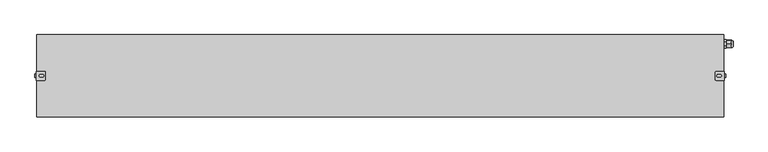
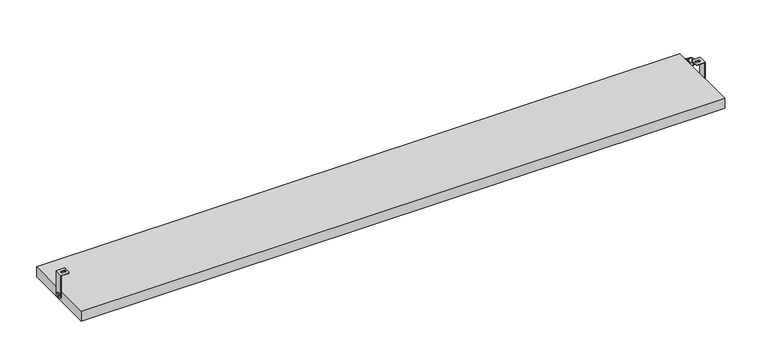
"""IFC4 building model written with IfcOpenShell, lengths in millimetres: light fixture geometry, GENILED_Светильник светодиодный_Titan Advanced : Titan Advanced 1500x180x25 120Вт IP66 Опал."""

from ifc_helpers import new_model, si_unit, point, frame, frame_2d, origin, origin_with_axes, place, context, project, spatial, polyline, circle_curve, ellipse_curve, trimmed, segment, composite_curve, outline, extrude, source, transform, mapped, element, save
from ifc_brep_helpers import plane_surface, cylinder_surface, revolved_surface, advanced_brep


def light_fixture_4d4a466d(model_context):
    return source(origin(), model_context, "Body", "SolidModel", [
        advanced_brep(
        [(-734.0, 10.0, 64.5), (-751.0, 10.0, 64.5), (-751.0, -10.0, 64.5), (-734.0, -10.0, 64.5), (-731.0, -7.0, 64.5), (-731.0, 7.0, 64.5), (-737.0, 2.75, 64.5), (-737.0, -2.75, 64.5), (-742.0, -2.75, 64.5), (-742.0, 2.75, 64.5), (-734.0, -10.0, 63.5), (-750.0, -10.0, 63.5), (-750.0, 10.0, 63.5), (-734.0, 10.0, 63.5), (-731.0, 7.0, 63.5), (-731.0, -7.0, 63.5), (-737.0, 2.75, 63.5), (-742.0, 2.75, 63.5), (-742.0, -2.75, 63.5), (-737.0, -2.75, 63.5), (-751.0, -10.0, 12.5), (-750.0, -10.0, 12.5), (-751.0, 10.0, 12.5), (-751.0, 2.0, 4.5), (-751.0, -2.0, 4.5), (-751.0, 4.0, 12.5), (-751.0, -4.0, 12.5), (-750.0, 10.0, 12.5), (-750.0, -2.0, 4.5), (-750.0, 2.0, 4.5), (-754.0, -4.0, 12.5), (-754.0, 4.0, 12.5)],
        [
            (0, 1),
            (1, 2),
            (2, 3),
            (3, 4, circle_curve(frame((-734.0, -7.0, 64.5), z_axis=(0.0, 0.0, 1.0), x_axis=(-1.0, 0.0, 0.0)), 3.0)),
            (4, 5),
            (5, 0, circle_curve(frame((-734.0, 7.0, 64.5), z_axis=(0.0, 0.0, 1.0), x_axis=(-1.0, 0.0, 0.0)), 3.0)),
            (6, 7, circle_curve(frame((-737.0, 0.0, 64.5), z_axis=(0.0, 0.0, -1.0), x_axis=(-1.0, 0.0, 0.0)), 2.75)),
            (7, 8),
            (8, 9, circle_curve(frame((-742.0, 0.0, 64.5), z_axis=(0.0, 0.0, -1.0), x_axis=(-1.0, 0.0, 0.0)), 2.75)),
            (9, 6),
            (10, 11),
            (11, 12),
            (12, 13),
            (13, 14, circle_curve(frame((-734.0, 7.0, 63.5), z_axis=(0.0, 0.0, -1.0), x_axis=(-1.0, 0.0, 0.0)), 3.0)),
            (14, 15),
            (15, 10, circle_curve(frame((-734.0, -7.0, 63.5), z_axis=(0.0, 0.0, -1.0), x_axis=(-1.0, 0.0, 0.0)), 3.0)),
            (16, 17),
            (17, 18, circle_curve(frame((-742.0, 0.0, 63.5), z_axis=(0.0, 0.0, 1.0), x_axis=(-1.0, 0.0, 0.0)), 2.75)),
            (18, 19),
            (19, 16, circle_curve(frame((-737.0, 0.0, 63.5), z_axis=(0.0, 0.0, 1.0), x_axis=(-1.0, 0.0, 0.0)), 2.75)),
            (5, 14),
            (13, 0),
            (4, 15),
            (3, 10),
            (2, 20),
            (20, 21),
            (21, 11),
            (1, 22),
            (22, 23, circle_curve(frame((-751.0, 2.0, 12.5), z_axis=(-1.0, 0.0, 0.0), x_axis=(0.0, 1.0, 0.0)), 8.0)),
            (23, 24),
            (24, 20, circle_curve(frame((-751.0, -2.0, 12.5), z_axis=(-1.0, 0.0, 0.0), x_axis=(0.0, 1.0, 0.0)), 8.0)),
            (25, 26, circle_curve(frame((-751.0, 0.0, 12.5), z_axis=(1.0, 0.0, 0.0), x_axis=(0.0, 1.0, 0.0)), 4.0)),
            (26, 25, circle_curve(frame((-751.0, 0.0, 12.5), z_axis=(1.0, 0.0, 0.0), x_axis=(0.0, 1.0, 0.0)), 4.0)),
            (12, 27),
            (27, 22),
            (9, 17),
            (16, 6),
            (8, 18),
            (7, 19),
            (21, 28, circle_curve(frame((-750.0, -2.0, 12.5), z_axis=(1.0, 0.0, 0.0), x_axis=(0.0, 1.0, 0.0)), 8.0)),
            (28, 29),
            (29, 27, circle_curve(frame((-750.0, 2.0, 12.5), z_axis=(1.0, 0.0, 0.0), x_axis=(0.0, 1.0, 0.0)), 8.0)),
            (24, 28),
            (23, 29),
            (30, 31, circle_curve(frame((-754.0, 0.0, 12.5), z_axis=(-1.0, 0.0, 0.0), x_axis=(0.0, 1.0, 0.0)), 4.0)),
            (31, 30, circle_curve(frame((-754.0, 0.0, 12.5), z_axis=(-1.0, 0.0, 0.0), x_axis=(0.0, 1.0, 0.0)), 4.0)),
            (31, 25),
            (26, 30),
        ],
        [
            plane_surface(frame((-737.0, 7.0, 64.5), z_axis=(0.0, 0.0, 1.0), x_axis=(0.0, 1.0, 0.0))),
            plane_surface(frame((-737.0, 7.0, 63.5), z_axis=(0.0, 0.0, -1.0), x_axis=(0.0, -1.0, 0.0))),
            cylinder_surface(frame((-734.0, 7.0, 63.5), z_axis=(0.0, 0.0, 1.0), x_axis=(-1.0, 0.0, 0.0)), 3.0),
            plane_surface(frame((-731.0, 7.0, 64.5), z_axis=(1.0, 0.0, 0.0), x_axis=(0.0, 0.0, -1.0))),
            cylinder_surface(frame((-734.0, -7.0, 63.5), z_axis=(0.0, 0.0, 1.0), x_axis=(-1.0, 0.0, 0.0)), 3.0),
            plane_surface(frame((-734.0, -10.0, 64.5), z_axis=(0.0, -1.0, 0.0), x_axis=(0.0, 0.0, -1.0))),
            plane_surface(frame((-751.0, -10.0, 64.5), z_axis=(-1.0, 0.0, 0.0), x_axis=(0.0, 0.0, -1.0))),
            plane_surface(frame((-751.0, 10.0, 64.5), z_axis=(0.0, 1.0, 0.0), x_axis=(0.0, 0.0, -1.0))),
            plane_surface(frame((-737.0, 2.75, 64.5), z_axis=(0.0, -1.0, 0.0), x_axis=(0.0, 0.0, -1.0))),
            revolved_surface(polyline([(-744.75, 0.0, 63.5), (-744.75, 0.0, 64.5)]), (-742.0, 0.0, 12.5), (0.0, 0.0, -1.0)),
            plane_surface(frame((-742.0, -2.75, 64.5), z_axis=(0.0, 1.0, 0.0), x_axis=(0.0, 0.0, -1.0))),
            revolved_surface(polyline([(-739.75, 0.0, 63.5), (-739.75, 0.0, 64.5)]), (-737.0, 0.0, 12.5), (0.0, 0.0, -1.0)),
            plane_surface(frame((-750.0, -10.0, 64.5), z_axis=(1.0, 0.0, 0.0), x_axis=(0.0, 1.0, 0.0))),
            cylinder_surface(frame((-750.0, -2.0, 12.5), z_axis=(-1.0, 0.0, 0.0), x_axis=(0.0, 1.0, 0.0)), 8.0),
            plane_surface(frame((-751.0, -2.0, 4.5), z_axis=(0.0, 0.0, -1.0), x_axis=(1.0, 0.0, 0.0))),
            cylinder_surface(frame((-750.0, 2.0, 12.5), z_axis=(-1.0, 0.0, 0.0), x_axis=(0.0, 1.0, 0.0)), 8.0),
            plane_surface(frame((-754.0, 4.0, 12.5), z_axis=(-1.0, 0.0, 0.0), x_axis=(0.0, 0.0, 1.0))),
            cylinder_surface(frame((-751.0, 0.0, 12.5), z_axis=(-1.0, 0.0, 0.0), x_axis=(0.0, 1.0, 0.0)), 4.0),
        ],
        [
            (0, [[1, 2, 3, 4, 5, 6], [7, 8, 9, 10]]),
            (1, [[11, 12, 13, 14, 15, 16], [17, 18, 19, 20]]),
            (2, [[21, -14, 22, -6]]),
            (3, [[23, -15, -21, -5]]),
            (4, [[24, -16, -23, -4]]),
            (5, [[-3, 25, 26, 27, -11, -24]]),
            (6, [[28, 29, 30, 31, -25, -2], [32, 33]]),
            (7, [[-13, 34, 35, -28, -1, -22]]),
            (8, [[36, -17, 37, -10]]),
            (9, [[38, -18, -36, -9]]),
            (10, [[39, -19, -38, -8]]),
            (11, [[-37, -20, -39, -7]]),
            (12, [[-34, -12, -27, 40, 41, 42]]),
            (13, [[43, -40, -26, -31]]),
            (14, [[44, -41, -43, -30]]),
            (15, [[-35, -42, -44, -29]]),
            (16, [[45, 46]]),
            (17, [[47, -33, 48, -46]]),
            (17, [[-48, -32, -47, -45]]),
        ],
    ),
        advanced_brep(
        [(734.0, 10.0, 64.5), (731.0, 7.0, 64.5), (731.0, -7.0, 64.5), (734.0, -10.0, 64.5), (751.0, -10.0, 64.5), (751.0, 10.0, 64.5), (737.0, 2.75, 64.5), (742.0, 2.75, 64.5), (742.0, -2.75, 64.5), (737.0, -2.75, 64.5), (734.0, -10.0, 63.5), (731.0, -7.0, 63.5), (731.0, 7.0, 63.5), (734.0, 10.0, 63.5), (750.0, 10.0, 63.5), (750.0, -10.0, 63.5), (737.0, 2.75, 63.5), (737.0, -2.75, 63.5), (742.0, -2.75, 63.5), (742.0, 2.75, 63.5), (750.0, -10.0, 12.5), (751.0, -10.0, 12.5), (751.0, -2.0, 4.5), (751.0, 2.0, 4.5), (751.0, 10.0, 12.5), (751.0, 4.0, 12.5), (751.0, -4.0, 12.5), (750.0, 10.0, 12.5), (750.0, 2.0, 4.5), (750.0, -2.0, 4.5), (754.0, -4.0, 12.5), (754.0, 4.0, 12.5)],
        [
            (0, 1, circle_curve(frame((734.0, 7.0, 64.5), z_axis=(0.0, 0.0, 1.0), x_axis=(1.0, 0.0, 0.0)), 3.0)),
            (1, 2),
            (2, 3, circle_curve(frame((734.0, -7.0, 64.5), z_axis=(0.0, 0.0, 1.0), x_axis=(1.0, 0.0, 0.0)), 3.0)),
            (3, 4),
            (4, 5),
            (5, 0),
            (6, 7),
            (7, 8, circle_curve(frame((742.0, 0.0, 64.5), z_axis=(0.0, 0.0, -1.0), x_axis=(1.0, 0.0, 0.0)), 2.75)),
            (8, 9),
            (9, 6, circle_curve(frame((737.0, 0.0, 64.5), z_axis=(0.0, 0.0, -1.0), x_axis=(1.0, 0.0, 0.0)), 2.75)),
            (10, 11, circle_curve(frame((734.0, -7.0, 63.5), z_axis=(0.0, 0.0, -1.0), x_axis=(1.0, 0.0, 0.0)), 3.0)),
            (11, 12),
            (12, 13, circle_curve(frame((734.0, 7.0, 63.5), z_axis=(0.0, 0.0, -1.0), x_axis=(1.0, 0.0, 0.0)), 3.0)),
            (13, 14),
            (14, 15),
            (15, 10),
            (16, 17, circle_curve(frame((737.0, 0.0, 63.5), z_axis=(0.0, 0.0, 1.0), x_axis=(1.0, 0.0, 0.0)), 2.75)),
            (17, 18),
            (18, 19, circle_curve(frame((742.0, 0.0, 63.5), z_axis=(0.0, 0.0, 1.0), x_axis=(1.0, 0.0, 0.0)), 2.75)),
            (19, 16),
            (0, 13),
            (12, 1),
            (11, 2),
            (10, 3),
            (15, 20),
            (20, 21),
            (21, 4),
            (21, 22, circle_curve(frame((751.0, -2.0, 12.5), z_axis=(1.0, 0.0, 0.0), x_axis=(0.0, 1.0, 0.0)), 8.0)),
            (22, 23),
            (23, 24, circle_curve(frame((751.0, 2.0, 12.5), z_axis=(1.0, 0.0, 0.0), x_axis=(0.0, 1.0, 0.0)), 8.0)),
            (24, 5),
            (25, 26, circle_curve(frame((751.0, 0.0, 12.5), z_axis=(-1.0, 0.0, 0.0), x_axis=(0.0, 1.0, 0.0)), 4.0)),
            (26, 25, circle_curve(frame((751.0, 0.0, 12.5), z_axis=(-1.0, 0.0, 0.0), x_axis=(0.0, 1.0, 0.0)), 4.0)),
            (24, 27),
            (27, 14),
            (6, 16),
            (19, 7),
            (18, 8),
            (17, 9),
            (27, 28, circle_curve(frame((750.0, 2.0, 12.5), z_axis=(-1.0, 0.0, 0.0), x_axis=(0.0, 1.0, 0.0)), 8.0)),
            (28, 29),
            (29, 20, circle_curve(frame((750.0, -2.0, 12.5), z_axis=(-1.0, 0.0, 0.0), x_axis=(0.0, 1.0, 0.0)), 8.0)),
            (29, 22),
            (28, 23),
            (30, 31, circle_curve(frame((754.0, 0.0, 12.5), z_axis=(1.0, 0.0, 0.0), x_axis=(0.0, 1.0, 0.0)), 4.0)),
            (31, 30, circle_curve(frame((754.0, 0.0, 12.5), z_axis=(1.0, 0.0, 0.0), x_axis=(0.0, 1.0, 0.0)), 4.0)),
            (30, 26),
            (25, 31),
        ],
        [
            plane_surface(frame((737.0, 7.0, 64.5), z_axis=(0.0, 0.0, 1.0), x_axis=(0.0, 1.0, 0.0))),
            plane_surface(frame((737.0, 7.0, 63.5), z_axis=(0.0, 0.0, -1.0), x_axis=(0.0, -1.0, 0.0))),
            cylinder_surface(frame((734.0, 7.0, 63.5), z_axis=(0.0, 0.0, 1.0), x_axis=(1.0, 0.0, 0.0)), 3.0),
            plane_surface(frame((731.0, 7.0, 64.5), z_axis=(-1.0, 0.0, 0.0), x_axis=(0.0, 0.0, -1.0))),
            cylinder_surface(frame((734.0, -7.0, 63.5), z_axis=(0.0, 0.0, 1.0), x_axis=(1.0, 0.0, 0.0)), 3.0),
            plane_surface(frame((734.0, -10.0, 64.5), z_axis=(0.0, -1.0, 0.0), x_axis=(0.0, 0.0, -1.0))),
            plane_surface(frame((751.0, -10.0, 64.5), z_axis=(1.0, 0.0, 0.0), x_axis=(0.0, 0.0, -1.0))),
            plane_surface(frame((751.0, 10.0, 64.5), z_axis=(0.0, 1.0, 0.0), x_axis=(0.0, 0.0, -1.0))),
            plane_surface(frame((737.0, 2.75, 64.5), z_axis=(0.0, -1.0, 0.0), x_axis=(0.0, 0.0, -1.0))),
            revolved_surface(polyline([(744.75, 0.0, 63.5), (744.75, 0.0, 64.5)]), (742.0, 0.0, 12.5), (0.0, 0.0, -1.0)),
            plane_surface(frame((742.0, -2.75, 64.5), z_axis=(0.0, 1.0, 0.0), x_axis=(0.0, 0.0, -1.0))),
            revolved_surface(polyline([(739.75, 0.0, 63.5), (739.75, 0.0, 64.5)]), (737.0, 0.0, 12.5), (0.0, 0.0, -1.0)),
            plane_surface(frame((750.0, -10.0, 64.5), z_axis=(-1.0, 0.0, 0.0), x_axis=(0.0, 1.0, 0.0))),
            cylinder_surface(frame((750.0, -2.0, 12.5), z_axis=(1.0, 0.0, 0.0), x_axis=(0.0, 1.0, 0.0)), 8.0),
            plane_surface(frame((751.0, -2.0, 4.5), z_axis=(0.0, 0.0, -1.0), x_axis=(-1.0, 0.0, 0.0))),
            cylinder_surface(frame((750.0, 2.0, 12.5), z_axis=(1.0, 0.0, 0.0), x_axis=(0.0, 1.0, 0.0)), 8.0),
            plane_surface(frame((754.0, 4.0, 12.5), z_axis=(1.0, 0.0, 0.0), x_axis=(0.0, 0.0, 1.0))),
            cylinder_surface(frame((751.0, 0.0, 12.5), z_axis=(1.0, 0.0, 0.0), x_axis=(0.0, 1.0, 0.0)), 4.0),
        ],
        [
            (0, [[1, 2, 3, 4, 5, 6], [7, 8, 9, 10]]),
            (1, [[11, 12, 13, 14, 15, 16], [17, 18, 19, 20]]),
            (2, [[-1, 21, -13, 22]]),
            (3, [[-2, -22, -12, 23]]),
            (4, [[-3, -23, -11, 24]]),
            (5, [[-24, -16, 25, 26, 27, -4]]),
            (6, [[-5, -27, 28, 29, 30, 31], [32, 33]]),
            (7, [[-21, -6, -31, 34, 35, -14]]),
            (8, [[-7, 36, -20, 37]]),
            (9, [[-8, -37, -19, 38]]),
            (10, [[-9, -38, -18, 39]]),
            (11, [[-10, -39, -17, -36]]),
            (12, [[40, 41, 42, -25, -15, -35]]),
            (13, [[-28, -26, -42, 43]]),
            (14, [[-29, -43, -41, 44]]),
            (15, [[-30, -44, -40, -34]]),
            (16, [[45, 46]]),
            (17, [[-45, 47, -32, 48]]),
            (17, [[-46, -48, -33, -47]]),
        ],
    ),
        advanced_brep(
        [(770.0120269, 64.15, 12.5), (770.0120269, 75.85, 12.5), (770.0120269, 73.5, 12.5), (770.0120269, 66.5, 12.5), (766.0120269, 62.0, 12.5), (766.0120269, 66.0, 5.5717968), (766.0120269, 74.0, 5.5717968), (766.0120269, 78.0, 12.5), (766.0120269, 74.0, 19.4282032), (766.0120269, 66.0, 19.4282032), (766.0120269, 73.5, 12.5), (766.0120269, 66.5, 12.5), (766.0120269, 62.0, 8.3768944), (766.0120269, 62.4292858, 7.6333496), (766.0120269, 69.5707142, 3.510244), (766.0120269, 70.4292858, 3.510244), (766.0120269, 77.5707142, 7.6333496), (766.0120269, 78.0, 8.3768944), (766.0120269, 78.0, 16.6231056), (766.0120269, 77.5707142, 17.3666504), (766.0120269, 70.4292858, 21.489756), (766.0120269, 69.5707142, 21.489756), (766.0120269, 62.4292858, 17.3666504), (766.0120269, 62.0, 16.6231056), (756.6, 69.5707142, 3.510244), (756.6, 62.4292858, 7.6333496), (756.6, 62.0, 8.3768944), (756.6, 62.0, 16.6231056), (756.6, 62.4292858, 17.3666504), (756.6, 69.5707142, 21.489756), (756.6, 70.4292858, 21.489756), (756.6, 77.5707142, 17.3666504), (756.6, 78.0, 16.6231056), (756.6, 78.0, 8.3768944), (756.6, 77.5707142, 7.6333496), (756.6, 70.4292858, 3.510244), (756.6, 77.25, 12.5), (756.6, 62.75, 12.5), (754.6, 77.25, 12.5), (754.6, 62.75, 12.5), (754.6, 78.989756, 12.9292858), (754.6, 74.8666504, 20.0707142), (754.6, 74.1231056, 20.5), (754.6, 65.8768944, 20.5), (754.6, 65.1333496, 20.0707142), (754.6, 61.010244, 12.9292858), (754.6, 61.0, 12.5), (754.6, 61.010244, 12.0707142), (754.6, 65.1333496, 4.9292858), (754.6, 65.8768944, 4.5), (754.6, 74.1231056, 4.5), (754.6, 74.8666504, 4.9292858), (754.6, 78.989756, 12.0707142), (754.6, 79.0, 12.5), (750.0, 78.989756, 12.0707142), (750.0, 74.8666504, 4.9292858), (750.0, 74.1231056, 4.5), (750.0, 65.8768944, 4.5), (750.0, 65.1333496, 4.9292858), (750.0, 61.010244, 12.0707142), (750.0, 61.0, 12.5), (750.0, 61.010244, 12.9292858), (750.0, 65.1333496, 20.0707142), (750.0, 65.8768944, 20.5), (750.0, 74.1231056, 20.5), (750.0, 74.8666504, 20.0707142), (750.0, 78.989756, 12.9292858), (750.0, 79.0, 12.5)],
        [
            (0, 1, circle_curve(frame((770.0120269, 70.0, 12.5), z_axis=(1.0, 0.0, 0.0), x_axis=(0.0, 1.0, 0.0)), 5.85)),
            (1, 2),
            (2, 3, circle_curve(frame((770.0120269, 70.0, 12.5), z_axis=(-1.0, 0.0, 0.0), x_axis=(0.0, 1.0, 0.0)), 3.5)),
            (3, 0),
            (1, 0, circle_curve(frame((770.0120269, 70.0, 12.5), z_axis=(1.0, 0.0, 0.0), x_axis=(0.0, 1.0, 0.0)), 5.85)),
            (3, 2, circle_curve(frame((770.0120269, 70.0, 12.5), z_axis=(-1.0, 0.0, 0.0), x_axis=(0.0, 1.0, 0.0)), 3.5)),
            (0, 4, circle_curve(frame((765.6269324, 67.5123851, 12.5), z_axis=(0.0, 0.0, -1.0), x_axis=(0.0, 1.0, 0.0)), 5.5258201)),
            (4, 5, circle_curve(frame((766.0120269, 70.0, 12.5), z_axis=(1.0, 0.0, 0.0), x_axis=(0.0, 1.0, 0.0)), 8.0)),
            (5, 6, circle_curve(frame((766.0120269, 70.0, 12.5), z_axis=(1.0, 0.0, 0.0), x_axis=(0.0, 1.0, 0.0)), 8.0)),
            (6, 7, circle_curve(frame((766.0120269, 70.0, 12.5), z_axis=(1.0, 0.0, 0.0), x_axis=(0.0, 1.0, 0.0)), 8.0)),
            (7, 1, circle_curve(frame((765.6269324, 72.4876149, 12.5), z_axis=(0.0, 0.0, -1.0), x_axis=(0.0, -1.0, 0.0)), 5.5258201)),
            (7, 8, circle_curve(frame((766.0120269, 70.0, 12.5), z_axis=(1.0, 0.0, 0.0), x_axis=(0.0, 1.0, 0.0)), 8.0)),
            (8, 9, circle_curve(frame((766.0120269, 70.0, 12.5), z_axis=(1.0, 0.0, 0.0), x_axis=(0.0, 1.0, 0.0)), 8.0)),
            (9, 4, circle_curve(frame((766.0120269, 70.0, 12.5), z_axis=(1.0, 0.0, 0.0), x_axis=(0.0, 1.0, 0.0)), 8.0)),
            (2, 10),
            (10, 11, circle_curve(frame((766.0120269, 70.0, 12.5), z_axis=(-1.0, 0.0, 0.0), x_axis=(0.0, 1.0, 0.0)), 3.5)),
            (11, 3),
            (11, 10, circle_curve(frame((766.0120269, 70.0, 12.5), z_axis=(-1.0, 0.0, 0.0), x_axis=(0.0, 1.0, 0.0)), 3.5)),
            (4, 12),
            (12, 13, circle_curve(frame((766.0120269, 70.0, 12.5), z_axis=(1.0, 0.0, 0.0), x_axis=(0.0, -1.0, 0.0)), 9.0)),
            (13, 5),
            (5, 14),
            (14, 15, circle_curve(frame((766.0120269, 70.0, 12.5), z_axis=(1.0, 0.0, 0.0), x_axis=(0.0, -1.0, 0.0)), 9.0)),
            (15, 6),
            (6, 16),
            (16, 17, circle_curve(frame((766.0120269, 70.0, 12.5), z_axis=(1.0, 0.0, 0.0), x_axis=(0.0, -1.0, 0.0)), 9.0)),
            (17, 7),
            (7, 18),
            (18, 19, circle_curve(frame((766.0120269, 70.0, 12.5), z_axis=(1.0, 0.0, 0.0), x_axis=(0.0, -1.0, 0.0)), 9.0)),
            (19, 8),
            (8, 20),
            (20, 21, circle_curve(frame((766.0120269, 70.0, 12.5), z_axis=(1.0, 0.0, 0.0), x_axis=(0.0, -1.0, 0.0)), 9.0)),
            (21, 9),
            (9, 22),
            (22, 23, circle_curve(frame((766.0120269, 70.0, 12.5), z_axis=(1.0, 0.0, 0.0), x_axis=(0.0, -1.0, 0.0)), 9.0)),
            (23, 4),
            (24, 25),
            (25, 26, circle_curve(frame((756.6, 70.0, 12.5), z_axis=(-1.0, 0.0, 0.0), x_axis=(0.0, -1.0, 0.0)), 9.0)),
            (26, 27),
            (27, 28, circle_curve(frame((756.6, 70.0, 12.5), z_axis=(-1.0, 0.0, 0.0), x_axis=(0.0, -1.0, 0.0)), 9.0)),
            (28, 29),
            (29, 30, circle_curve(frame((756.6, 70.0, 12.5), z_axis=(-1.0, 0.0, 0.0), x_axis=(0.0, -1.0, 0.0)), 9.0)),
            (30, 31),
            (31, 32, circle_curve(frame((756.6, 70.0, 12.5), z_axis=(-1.0, 0.0, 0.0), x_axis=(0.0, -1.0, 0.0)), 9.0)),
            (32, 33),
            (33, 34, circle_curve(frame((756.6, 70.0, 12.5), z_axis=(-1.0, 0.0, 0.0), x_axis=(0.0, -1.0, 0.0)), 9.0)),
            (34, 35),
            (35, 24, circle_curve(frame((756.6, 70.0, 12.5), z_axis=(-1.0, 0.0, 0.0), x_axis=(0.0, -1.0, 0.0)), 9.0)),
            (36, 37, circle_curve(frame((756.6, 70.0, 12.5), z_axis=(1.0, 0.0, 0.0), x_axis=(0.0, -1.0, 0.0)), 7.25)),
            (37, 36, circle_curve(frame((756.6, 70.0, 12.5), z_axis=(1.0, 0.0, 0.0), x_axis=(0.0, -1.0, 0.0)), 7.25)),
            (15, 35),
            (34, 16),
            (17, 33),
            (32, 18),
            (19, 31),
            (30, 20),
            (21, 29),
            (28, 22),
            (23, 27),
            (26, 12),
            (13, 25),
            (24, 14),
            (36, 38),
            (38, 39, circle_curve(frame((754.6, 70.0, 12.5), z_axis=(1.0, 0.0, 0.0), x_axis=(0.0, -1.0, 0.0)), 7.25)),
            (39, 37),
            (39, 38, circle_curve(frame((754.6, 70.0, 12.5), z_axis=(1.0, 0.0, 0.0), x_axis=(0.0, -1.0, 0.0)), 7.25)),
            (40, 41),
            (41, 42, circle_curve(frame((754.6, 70.0, 12.5), z_axis=(1.0, 0.0, 0.0), x_axis=(0.0, -1.0, 0.0)), 9.0)),
            (42, 43),
            (43, 44, circle_curve(frame((754.6, 70.0, 12.5), z_axis=(1.0, 0.0, 0.0), x_axis=(0.0, -1.0, 0.0)), 9.0)),
            (44, 45),
            (45, 46, circle_curve(frame((754.6, 70.0, 12.5), z_axis=(1.0, 0.0, 0.0), x_axis=(0.0, -1.0, 0.0)), 9.0)),
            (46, 47, circle_curve(frame((754.6, 70.0, 12.5), z_axis=(1.0, 0.0, 0.0), x_axis=(0.0, -1.0, 0.0)), 9.0)),
            (47, 48),
            (48, 49, circle_curve(frame((754.6, 70.0, 12.5), z_axis=(1.0, 0.0, 0.0), x_axis=(0.0, -1.0, 0.0)), 9.0)),
            (49, 50),
            (50, 51, circle_curve(frame((754.6, 70.0, 12.5), z_axis=(1.0, 0.0, 0.0), x_axis=(0.0, -1.0, 0.0)), 9.0)),
            (51, 52),
            (52, 53, circle_curve(frame((754.6, 70.0, 12.5), z_axis=(1.0, 0.0, 0.0), x_axis=(0.0, -1.0, 0.0)), 9.0)),
            (53, 40, circle_curve(frame((754.6, 70.0, 12.5), z_axis=(1.0, 0.0, 0.0), x_axis=(0.0, -1.0, 0.0)), 9.0)),
            (54, 55),
            (55, 56, circle_curve(frame((750.0, 70.0, 12.5), z_axis=(-1.0, 0.0, 0.0), x_axis=(0.0, -1.0, 0.0)), 9.0)),
            (56, 57),
            (57, 58, circle_curve(frame((750.0, 70.0, 12.5), z_axis=(-1.0, 0.0, 0.0), x_axis=(0.0, -1.0, 0.0)), 9.0)),
            (58, 59),
            (59, 60, circle_curve(frame((750.0, 70.0, 12.5), z_axis=(-1.0, 0.0, 0.0), x_axis=(0.0, -1.0, 0.0)), 9.0)),
            (60, 61, circle_curve(frame((750.0, 70.0, 12.5), z_axis=(-1.0, 0.0, 0.0), x_axis=(0.0, -1.0, 0.0)), 9.0)),
            (61, 62),
            (62, 63, circle_curve(frame((750.0, 70.0, 12.5), z_axis=(-1.0, 0.0, 0.0), x_axis=(0.0, -1.0, 0.0)), 9.0)),
            (63, 64),
            (64, 65, circle_curve(frame((750.0, 70.0, 12.5), z_axis=(-1.0, 0.0, 0.0), x_axis=(0.0, -1.0, 0.0)), 9.0)),
            (65, 66),
            (66, 67, circle_curve(frame((750.0, 70.0, 12.5), z_axis=(-1.0, 0.0, 0.0), x_axis=(0.0, -1.0, 0.0)), 9.0)),
            (67, 54, circle_curve(frame((750.0, 70.0, 12.5), z_axis=(-1.0, 0.0, 0.0), x_axis=(0.0, -1.0, 0.0)), 9.0)),
            (40, 66),
            (65, 41),
            (42, 64),
            (63, 43),
            (44, 62),
            (61, 45),
            (47, 59),
            (58, 48),
            (49, 57),
            (56, 50),
            (51, 55),
            (54, 52),
            (67, 53),
            (46, 60),
        ],
        [
            plane_surface(frame((770.0120269, 70.0, 12.5), z_axis=(1.0, 0.0, 0.0), x_axis=(0.0, 1.0, 0.0))),
            revolved_surface(trimmed(ellipse_curve(frame((765.6269324, 72.4876149, 12.5), z_axis=(0.0, 0.0, 1.0), x_axis=(0.0, -1.0, 0.0)), 5.5258201, 5.5258201), [point((770.0120269, 75.85, 12.5))], [point((766.0120269, 78.0, 12.5))], True, "CARTESIAN"), (766.0120269, 70.0, 12.5), (-1.0, 0.0, 0.0)),
            revolved_surface(polyline([(766.0120269, 73.5, 12.5), (770.0120269, 73.5, 12.5)]), (766.0120269, 70.0, 12.5), (-1.0, 0.0, 0.0)),
            plane_surface(frame((766.0120269, 70.0, 3.2623957), z_axis=(1.0000000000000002, 0.0, 0.0), x_axis=(0.0, 0.8660254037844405, 0.49999999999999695))),
            plane_surface(frame((756.6, 70.0, 3.2623957), z_axis=(-1.0000000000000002, 0.0, 0.0), x_axis=(0.0, -0.8660254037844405, -0.49999999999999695))),
            plane_surface(frame((766.0120269, 70.0, 3.2623957), z_axis=(0.0, 0.49999999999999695, -0.8660254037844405), x_axis=(-1.0, 0.0, 0.0))),
            plane_surface(frame((766.0120269, 78.0, 7.8811978), z_axis=(0.0, 1.0, 0.0), x_axis=(-1.0, 0.0, 0.0))),
            plane_surface(frame((766.0120269, 78.0, 17.1188022), z_axis=(0.0, 0.5000000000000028, 0.8660254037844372), x_axis=(-1.0, 0.0, 0.0))),
            plane_surface(frame((766.0120269, 70.0, 21.7376043), z_axis=(0.0, -0.49999999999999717, 0.8660254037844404), x_axis=(-1.0, 0.0, 0.0))),
            plane_surface(frame((766.0120269, 62.0, 17.1188022), z_axis=(0.0, -1.0, 0.0), x_axis=(-1.0, 0.0, 0.0))),
            plane_surface(frame((766.0120269, 62.0, 7.8811978), z_axis=(0.0, -0.5000000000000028, -0.8660254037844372), x_axis=(-1.0, 0.0, 0.0))),
            cylinder_surface(frame((754.6, 70.0, 12.5), z_axis=(1.0, 0.0, 0.0), x_axis=(0.0, -1.0, 0.0)), 7.25),
            plane_surface(frame((754.6, 79.2376043, 12.5), z_axis=(1.0, 0.0, 0.0), x_axis=(0.0, -0.5000000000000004, 0.8660254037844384))),
            plane_surface(frame((750.0, 79.2376043, 12.5), z_axis=(-1.0, 0.0, 0.0), x_axis=(0.0, 0.5000000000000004, -0.8660254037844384))),
            plane_surface(frame((754.6, 79.2376043, 12.5), z_axis=(0.0, 0.8660254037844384, 0.5000000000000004), x_axis=(-1.0, 0.0, 0.0))),
            plane_surface(frame((754.6, 74.6188022, 20.5), z_axis=(0.0, 0.0, 1.0), x_axis=(-1.0, 0.0, 0.0))),
            plane_surface(frame((754.6, 65.3811978, 20.5), z_axis=(0.0, -0.866025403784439, 0.49999999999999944), x_axis=(-1.0, 0.0, 0.0))),
            plane_surface(frame((754.6, 60.7623957, 12.5), z_axis=(0.0, -0.8660254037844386, -0.5000000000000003), x_axis=(-1.0, 0.0, 0.0))),
            plane_surface(frame((754.6, 65.3811978, 4.5), z_axis=(0.0, 0.0, -1.0), x_axis=(-1.0, 0.0, 0.0))),
            plane_surface(frame((754.6, 74.6188022, 4.5), z_axis=(0.0, 0.8660254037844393, -0.49999999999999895), x_axis=(-1.0, 0.0, 0.0))),
            cylinder_surface(frame((750.0, 70.0, 12.5), z_axis=(-1.0, 0.0, 0.0), x_axis=(0.0, -1.0, 0.0)), 9.0),
        ],
        [
            (0, [[1, 2, 3, 4]]),
            (0, [[-2, 5, -4, 6]]),
            (1, [[-1, 7, 8, 9, 10, 11]]),
            (1, [[-5, -11, 12, 13, 14, -7]]),
            (2, [[-3, 15, 16, 17]]),
            (2, [[-6, -17, 18, -15]]),
            (3, [[-8, 19, 20, 21]]),
            (3, [[-9, 22, 23, 24]]),
            (3, [[-10, 25, 26, 27]]),
            (3, [[-12, 28, 29, 30]]),
            (3, [[-13, 31, 32, 33]]),
            (3, [[-14, 34, 35, 36]]),
            (3, [[-16, -18]]),
            (4, [[37, 38, 39, 40, 41, 42, 43, 44, 45, 46, 47, 48], [49, 50]]),
            (5, [[-25, -24, 51, -47, 52]]),
            (6, [[-27, 53, -45, 54, -28]]),
            (7, [[-30, 55, -43, 56, -31]]),
            (8, [[-34, -33, 57, -41, 58]]),
            (9, [[-36, 59, -39, 60, -19]]),
            (10, [[-21, 61, -37, 62, -22]]),
            (11, [[63, 64, 65, -49]]),
            (11, [[-63, -50, -65, 66]]),
            (12, [[67, 68, 69, 70, 71, 72, 73, 74, 75, 76, 77, 78, 79, 80], [-64, -66]]),
            (13, [[81, 82, 83, 84, 85, 86, 87, 88, 89, 90, 91, 92, 93, 94]]),
            (14, [[-67, 95, -92, 96]]),
            (15, [[-69, 97, -90, 98]]),
            (16, [[-71, 99, -88, 100]]),
            (17, [[-74, 101, -85, 102]]),
            (18, [[-76, 103, -83, 104]]),
            (19, [[-78, 105, -81, 106]]),
            (20, [[-20, -60, -38, -61]]),
            (20, [[-23, -62, -48, -51]]),
            (20, [[-26, -52, -46, -53]]),
            (20, [[-75, -102, -84, -103]]),
            (20, [[-77, -104, -82, -105]]),
            (20, [[107, -79, -106, -94]]),
            (20, [[108, -86, -101, -73]]),
            (20, [[-29, -54, -44, -55]]),
            (20, [[-32, -56, -42, -57]]),
            (20, [[-35, -58, -40, -59]]),
            (20, [[-68, -96, -91, -97]]),
            (20, [[-70, -98, -89, -99]]),
            (20, [[-107, -93, -95, -80]]),
            (20, [[-108, -72, -100, -87]]),
        ],
    ),
        advanced_brep(
        [(750.0, 90.0, 25.0), (-750.0, 90.0, 25.0), (-750.0, -90.0, 25.0), (750.0, -90.0, 25.0), (750.0, 90.0, 0.0), (750.0, -90.0, 0.0), (-750.0, -90.0, 0.0), (-750.0, 90.0, 0.0), (720.0, 75.0, 0.0), (-720.0, 75.0, 0.0), (-735.0, 60.0, 0.0), (-735.0, -60.0, 0.0), (-720.0, -75.0, 0.0), (720.0, -75.0, 0.0), (735.0, -60.0, 0.0), (735.0, 60.0, 0.0), (735.0, 60.0, 5.0), (720.0, 75.0, 5.0), (735.0, -60.0, 5.0), (720.0, -75.0, 5.0), (-720.0, -75.0, 5.0), (-735.0, -60.0, 5.0), (-735.0, 60.0, 5.0), (-720.0, 75.0, 5.0)],
        [
            (0, 1),
            (1, 2),
            (2, 3),
            (3, 0),
            (4, 5),
            (5, 6),
            (6, 7),
            (7, 4),
            (8, 9),
            (9, 10, circle_curve(frame((-720.0, 60.0, 0.0), z_axis=(0.0, 0.0, 1.0), x_axis=(1.0, 0.0, 0.0)), 15.0)),
            (10, 11),
            (11, 12, circle_curve(frame((-720.0, -60.0, 0.0), z_axis=(0.0, 0.0, 1.0), x_axis=(1.0, 0.0, 0.0)), 15.0)),
            (12, 13),
            (13, 14, circle_curve(frame((720.0, -60.0, 0.0), z_axis=(0.0, 0.0, 1.0), x_axis=(1.0, 0.0, 0.0)), 15.0)),
            (14, 15),
            (15, 8, circle_curve(frame((720.0, 60.0, 0.0), z_axis=(0.0, 0.0, 1.0), x_axis=(1.0, 0.0, 0.0)), 15.0)),
            (0, 4),
            (7, 1),
            (6, 2),
            (5, 3),
            (15, 16),
            (16, 17, circle_curve(frame((720.0, 60.0, 5.0), z_axis=(0.0, 0.0, 1.0), x_axis=(1.0, 0.0, 0.0)), 15.0)),
            (17, 8),
            (14, 18),
            (18, 16),
            (13, 19),
            (19, 18, circle_curve(frame((720.0, -60.0, 5.0), z_axis=(0.0, 0.0, 1.0), x_axis=(1.0, 0.0, 0.0)), 15.0)),
            (12, 20),
            (20, 19),
            (11, 21),
            (21, 20, circle_curve(frame((-720.0, -60.0, 5.0), z_axis=(0.0, 0.0, 1.0), x_axis=(1.0, 0.0, 0.0)), 15.0)),
            (10, 22),
            (22, 21),
            (9, 23),
            (23, 22, circle_curve(frame((-720.0, 60.0, 5.0), z_axis=(0.0, 0.0, 1.0), x_axis=(1.0, 0.0, 0.0)), 15.0)),
            (17, 23),
        ],
        [
            plane_surface(frame((-750.0, 90.0, 25.0), z_axis=(0.0, 0.0, 1.0), x_axis=(-1.0, 0.0, 0.0))),
            plane_surface(frame((-750.0, 90.0, 0.0), z_axis=(0.0, 0.0, -1.0), x_axis=(1.0, 0.0, 0.0))),
            plane_surface(frame((750.0, 90.0, 25.0), z_axis=(0.0, 1.0, 0.0), x_axis=(0.0, 0.0, -1.0))),
            plane_surface(frame((-750.0, 90.0, 25.0), z_axis=(-1.0, 0.0, 0.0), x_axis=(0.0, 0.0, -1.0))),
            plane_surface(frame((-750.0, -90.0, 25.0), z_axis=(0.0, -1.0, 0.0), x_axis=(0.0, 0.0, -1.0))),
            plane_surface(frame((750.0, -90.0, 25.0), z_axis=(1.0, 0.0, 0.0), x_axis=(0.0, 0.0, -1.0))),
            revolved_surface(polyline([(735.0, 60.0, 0.0), (735.0, 60.0, 5.0)]), (720.0, 60.0, 0.0), (0.0, 0.0, -1.0)),
            plane_surface(frame((735.0, 60.0, 25.0), z_axis=(-1.0, 0.0, 0.0), x_axis=(0.0, 0.0, -1.0))),
            revolved_surface(polyline([(735.0, -60.0, 0.0), (735.0, -60.0, 5.0)]), (720.0, -60.0, 0.0), (0.0, 0.0, -1.0)),
            plane_surface(frame((720.0, -75.0, 25.0), z_axis=(0.0, 1.0, 0.0), x_axis=(0.0, 0.0, -1.0))),
            revolved_surface(polyline([(-705.0, -60.0, 0.0), (-705.0, -60.0, 5.0)]), (-720.0, -60.0, 0.0), (0.0, 0.0, -1.0)),
            plane_surface(frame((-735.0, -60.0, 25.0), z_axis=(1.0, 0.0, 0.0), x_axis=(0.0, 0.0, -1.0))),
            revolved_surface(polyline([(-705.0, 60.0, 0.0), (-705.0, 60.0, 5.0)]), (-720.0, 60.0, 0.0), (0.0, 0.0, -1.0)),
            plane_surface(frame((-720.0, 75.0, 25.0), z_axis=(0.0, -1.0, 0.0), x_axis=(0.0, 0.0, -1.0))),
            plane_surface(frame((-720.0, 75.0, 5.0), z_axis=(0.0, 0.0, -1.0), x_axis=(1.0, 0.0, 0.0))),
        ],
        [
            (0, [[1, 2, 3, 4]]),
            (1, [[5, 6, 7, 8], [9, 10, 11, 12, 13, 14, 15, 16]]),
            (2, [[-1, 17, -8, 18]]),
            (3, [[-2, -18, -7, 19]]),
            (4, [[-3, -19, -6, 20]]),
            (5, [[-4, -20, -5, -17]]),
            (6, [[-16, 21, 22, 23]]),
            (7, [[-15, 24, 25, -21]]),
            (8, [[-14, 26, 27, -24]]),
            (9, [[-13, 28, 29, -26]]),
            (10, [[-12, 30, 31, -28]]),
            (11, [[-11, 32, 33, -30]]),
            (12, [[-10, 34, 35, -32]]),
            (13, [[-9, -23, 36, -34]]),
            (14, [[-22, -25, -27, -29, -31, -33, -35, -36]]),
        ],
    ),
        extrude(outline(composite_curve([segment(trimmed(circle_curve(frame_2d((720.0, 60.0)), 15.0), [point((720.0, 75.0))], [point((735.0, 60.0))], False, "CARTESIAN"), True, "CONTINUOUS"), segment(polyline([(735.0, 60.0), (735.0, -60.0)]), True, "CONTINUOUS"), segment(trimmed(circle_curve(frame_2d((720.0, -60.0)), 15.0), [point((735.0, -60.0))], [point((720.0, -75.0))], False, "CARTESIAN"), True, "CONTINUOUS"), segment(polyline([(720.0, -75.0), (-720.0, -75.0)]), True, "CONTINUOUS"), segment(trimmed(circle_curve(frame_2d((-720.0, -60.0)), 15.0), [point((-720.0, -75.0))], [point((-735.0, -60.0))], False, "CARTESIAN"), True, "CONTINUOUS"), segment(polyline([(-735.0, -60.0), (-735.0, 60.0)]), True, "CONTINUOUS"), segment(trimmed(circle_curve(frame_2d((-720.0, 60.0)), 15.0), [point((-735.0, 60.0))], [point((-720.0, 75.0))], False, "CARTESIAN"), True, "CONTINUOUS"), segment(polyline([(-720.0, 75.0), (720.0, 75.0)]), True, "CONTINUOUS")], self_intersect=False)), origin_with_axes(), (0.0, 0.0, 1.0), 5.0),
    ])


if __name__ == "__main__":
    model = new_model("IFC4")
    model_context = context("Model", 3, world=origin())
    ifc_project = project(units=[si_unit("LENGTHUNIT", "METRE", prefix="MILLI")], contexts=[model_context])
    site = spatial("IfcSite", under=ifc_project)
    building = spatial("IfcBuilding", under=site)
    placement = place(None, origin())
    light_fixture_shape = light_fixture_4d4a466d(model_context)
    element("IfcLightFixture", 1, ObjectType="GENILED_Светильник светодиодный_Titan Advanced : Titan Advanced 1500x180x25 120Вт IP66 Опал", at=placement, inside=building, context=model_context, shape_type="MappedRepresentation", body=[
        mapped(light_fixture_shape, transform((0.0, 0.0, 0.0), x_axis=(1.0, 0.0, 0.0), y_axis=(0.0, 1.0, 0.0), z_axis=(0.0, 0.0, 1.0))),
    ])
    save(model, "model.ifc")
